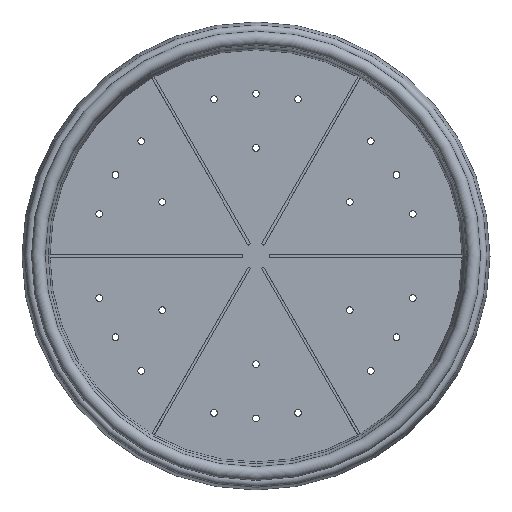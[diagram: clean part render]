
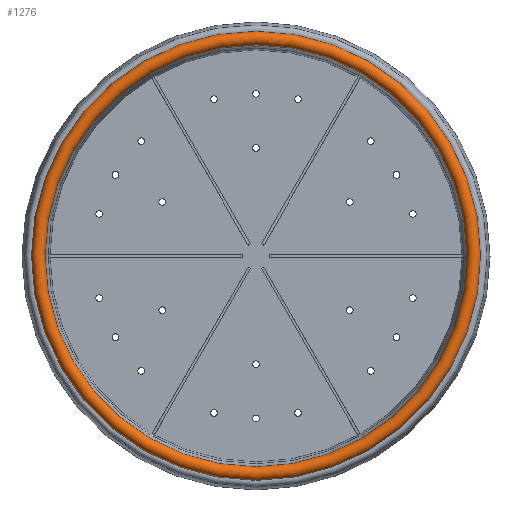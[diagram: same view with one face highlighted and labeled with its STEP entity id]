
A CAD part, top view. The second image highlights one B-rep face of the part: STEP entity #1276.
In plain terms, the highlighted toroidal (fillet/blend) face has major radius 161 mm and minor radius 5 mm.
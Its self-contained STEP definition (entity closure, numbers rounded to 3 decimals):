
#18=TOROIDAL_SURFACE('',#1441,161.,5.);
#154=FACE_OUTER_BOUND('',#245,.T.);
#245=EDGE_LOOP('',(#1097,#1098,#1099,#1100));
#522=CIRCLE('',#1440,164.83);
#523=CIRCLE('',#1442,156.);
#524=CIRCLE('',#1443,5.);
#643=VERTEX_POINT('',#2201);
#644=VERTEX_POINT('',#2205);
#810=EDGE_CURVE('',#643,#643,#522,.T.);
#812=EDGE_CURVE('',#644,#644,#523,.T.);
#813=EDGE_CURVE('',#644,#643,#524,.T.);
#1097=ORIENTED_EDGE('',*,*,#812,.F.);
#1098=ORIENTED_EDGE('',*,*,#813,.T.);
#1099=ORIENTED_EDGE('',*,*,#810,.T.);
#1100=ORIENTED_EDGE('',*,*,#813,.F.);
#1276=ADVANCED_FACE('',(#154),#18,.T.);
#1440=AXIS2_PLACEMENT_3D('',#2202,#1821,#1822);
#1441=AXIS2_PLACEMENT_3D('',#2204,#1824,#1825);
#1442=AXIS2_PLACEMENT_3D('',#2206,#1826,#1827);
#1443=AXIS2_PLACEMENT_3D('',#2207,#1828,#1829);
#1821=DIRECTION('center_axis',(0.,0.,1.));
#1822=DIRECTION('ref_axis',(1.,0.,0.));
#1824=DIRECTION('center_axis',(0.,0.,1.));
#1825=DIRECTION('ref_axis',(1.,0.,0.));
#1826=DIRECTION('center_axis',(0.,0.,1.));
#1827=DIRECTION('ref_axis',(1.,0.,0.));
#1828=DIRECTION('center_axis',(0.,-1.,0.));
#1829=DIRECTION('ref_axis',(-1.,0.,0.));
#2201=CARTESIAN_POINT('',(-164.83,0.,91.786));
#2202=CARTESIAN_POINT('Origin',(0.,0.,91.786));
#2204=CARTESIAN_POINT('Origin',(0.,0.,95.));
#2205=CARTESIAN_POINT('',(-156.,0.,95.));
#2206=CARTESIAN_POINT('Origin',(0.,0.,95.));
#2207=CARTESIAN_POINT('Origin',(-161.,0.,
95.));
